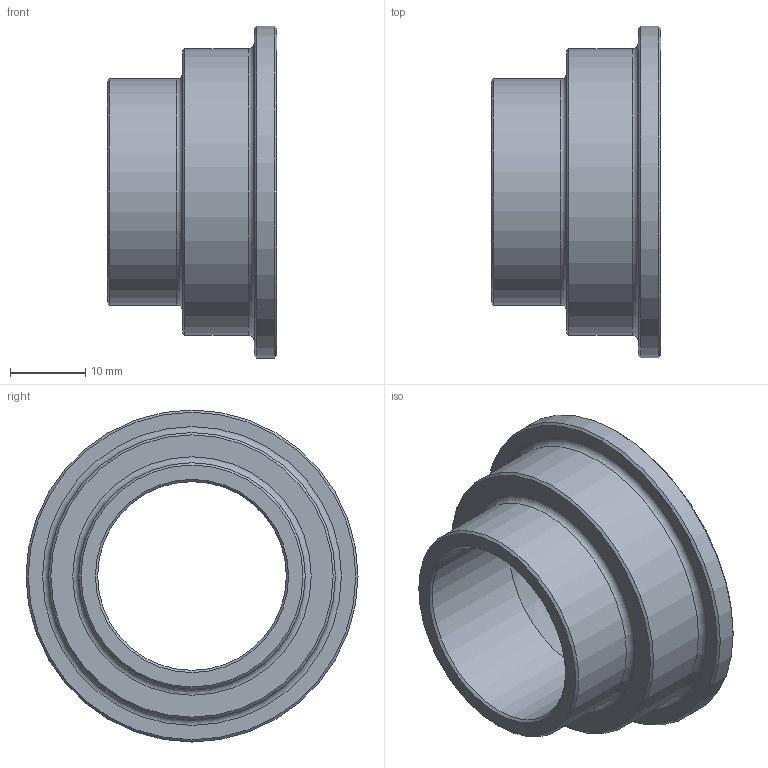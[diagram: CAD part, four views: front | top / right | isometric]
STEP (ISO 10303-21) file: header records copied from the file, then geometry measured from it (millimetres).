
FILE_DESCRIPTION(/* description */ (''),/* implementation_level */ '2;1');
FILE_NAME(/* name */ 'C:\Users\cad\Desktop\Zeichnungen neu von Ralph\3D_Kupplung_R666-SE\3D_R666-SE-30-DN40_17113354.stp',/* time_stamp */ '2021-06-18T08:39:08+02:00',/* author */ ('cad'),/* organization */ (''),/* preprocessor_version */ 'ST-DEVELOPER v18.1',/* originating_system */ 'Autodesk Inventor 2022',/* authorisation */ '');
FILE_SCHEMA (('AUTOMOTIVE_DESIGN { 1 0 10303 214 3 1 1 }'));
Length unit declared in the file: millimetre
Products named in the file (1): 3D_R666-SE-30-DN40_17113354
Bounding box: 22.5 x 44 x 44 mm (x, y, z)
Volume: 9821.1 mm3; surface area: 5949.6 mm2
Topology: 1 solids, 1 shells, 16 faces, 35 edges, 23 vertices
Faces by surface type: cone 6, cylinder 4, plane 4, torus 2
Full cylindrical faces by diameter (mm): 25 x1, 30 x1, 38 x1, 44 x1
Entity records: 501 total; most frequent: DIRECTION 94, CARTESIAN_POINT 75, ORIENTED_EDGE 70, AXIS2_PLACEMENT_3D 42, EDGE_CURVE 35, CIRCLE 25, VERTEX_POINT 23, EDGE_LOOP 20
